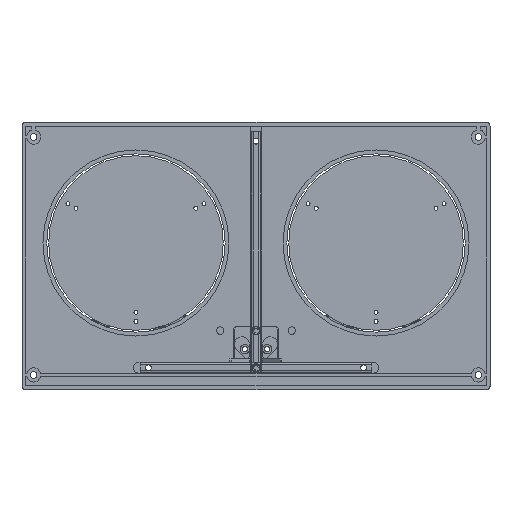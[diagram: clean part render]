
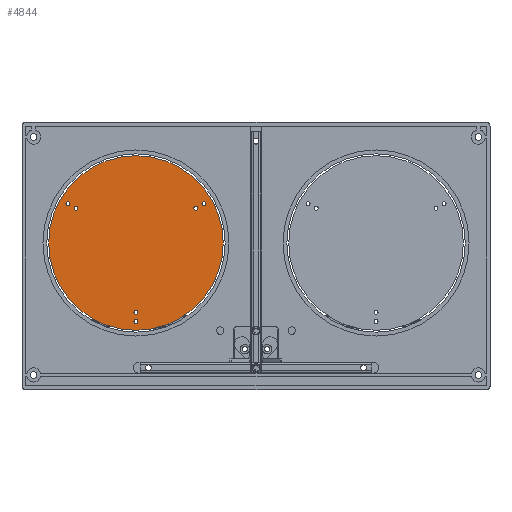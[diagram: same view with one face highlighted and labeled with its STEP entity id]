
A CAD part, front view. The second image highlights one B-rep face of the part: STEP entity #4844.
In plain terms, the highlighted planar face has unit normal (0, -1, 0).
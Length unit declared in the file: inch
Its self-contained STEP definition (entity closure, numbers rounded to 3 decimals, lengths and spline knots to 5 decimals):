
#20 = CARTESIAN_POINT ( 'NONE',  ( -12.65651, 1.04, 3.65025 ) ) ;
#63 = DIRECTION ( 'NONE',  ( 0., 1., 0. ) ) ;
#142 = FACE_BOUND ( 'NONE', #11262, .T. ) ;
#171 = ORIENTED_EDGE ( 'NONE', *, *, #10595, .T. ) ;
#367 = FACE_BOUND ( 'NONE', #10986, .T. ) ;
#586 = DIRECTION ( 'NONE',  ( 0., 1., 0. ) ) ;
#926 = CARTESIAN_POINT ( 'NONE',  ( -8.08, 1.04, -3.7845 ) ) ;
#1540 = CIRCLE ( 'NONE', #9369, 0.133 ) ;
#1846 = CARTESIAN_POINT ( 'NONE',  ( -3.50349, 1.04, 3.65025 ) ) ;
#2496 = CIRCLE ( 'NONE', #11588, 0.133 ) ;
#2507 = FACE_BOUND ( 'NONE', #9302, .T. ) ;
#2583 = PLANE ( 'NONE',  #8422 ) ;
#2820 = FACE_BOUND ( 'NONE', #13203, .T. ) ;
#2904 = ORIENTED_EDGE ( 'NONE', *, *, #6561, .T. ) ;
#3090 = VERTEX_POINT ( 'NONE', #1846 ) ;
#3396 = VERTEX_POINT ( 'NONE', #13042 ) ;
#3480 = VERTEX_POINT ( 'NONE', #14483 ) ;
#3951 = CARTESIAN_POINT ( 'NONE',  ( -8.08, 1.04, 6.75 ) ) ;
#4744 = DIRECTION ( 'NONE',  ( 0., 0., 1. ) ) ;
#4844 = ADVANCED_FACE ( 'NONE', ( #2820, #367, #8917, #2507, #142, #4983, #8612 ), #2583, .F. ) ;
#4983 = FACE_BOUND ( 'NONE', #10242, .T. ) ;
#5471 = DIRECTION ( 'NONE',  ( 0., 0., 1. ) ) ;
#5630 = DIRECTION ( 'NONE',  ( 0., 0., 1. ) ) ;
#5780 = CIRCLE ( 'NONE', #15605, 0.133 ) ;
#5836 = DIRECTION ( 'NONE',  ( 0., 0., 1. ) ) ;
#6074 = DIRECTION ( 'NONE',  ( 0., 0., 1. ) ) ;
#6561 = EDGE_CURVE ( 'NONE', #3090, #3090, #1540, .T. ) ;
#6766 = AXIS2_PLACEMENT_3D ( 'NONE', #15157, #15308, #5471 ) ;
#7349 = CARTESIAN_POINT ( 'NONE',  ( -12.11525, 1.04, 3.20475 ) ) ;
#7386 = VERTEX_POINT ( 'NONE', #3951 ) ;
#7532 = CARTESIAN_POINT ( 'NONE',  ( -3.50349, 1.04, 3.51725 ) ) ;
#7552 = CIRCLE ( 'NONE', #11334, 0.133 ) ;
#7657 = CIRCLE ( 'NONE', #13953, 0.133 ) ;
#7680 = VERTEX_POINT ( 'NONE', #9746 ) ;
#7826 = ORIENTED_EDGE ( 'NONE', *, *, #8592, .T. ) ;
#7964 = CARTESIAN_POINT ( 'NONE',  ( -8.08, 1.04, 0.875 ) ) ;
#8014 = VERTEX_POINT ( 'NONE', #12794 ) ;
#8173 = CARTESIAN_POINT ( 'NONE',  ( -8.08, 1.04, -4.4095 ) ) ;
#8422 = AXIS2_PLACEMENT_3D ( 'NONE', #7964, #586, #11358 ) ;
#8592 = EDGE_CURVE ( 'NONE', #8014, #8014, #7657, .T. ) ;
#8612 = FACE_OUTER_BOUND ( 'NONE', #15285, .T. ) ;
#8917 = FACE_BOUND ( 'NONE', #14670, .T. ) ;
#9302 = EDGE_LOOP ( 'NONE', ( #10408 ) ) ;
#9369 = AXIS2_PLACEMENT_3D ( 'NONE', #7532, #11145, #5630 ) ;
#9508 = VERTEX_POINT ( 'NONE', #20 ) ;
#9537 = DIRECTION ( 'NONE',  ( 0., 0., 1. ) ) ;
#9746 = CARTESIAN_POINT ( 'NONE',  ( -8.08, 1.04, -3.6515 ) ) ;
#9811 = ORIENTED_EDGE ( 'NONE', *, *, #13782, .T. ) ;
#10029 = AXIS2_PLACEMENT_3D ( 'NONE', #15446, #14435, #9537 ) ;
#10242 = EDGE_LOOP ( 'NONE', ( #7826 ) ) ;
#10315 = ORIENTED_EDGE ( 'NONE', *, *, #12153, .F. ) ;
#10408 = ORIENTED_EDGE ( 'NONE', *, *, #10505, .T. ) ;
#10505 = EDGE_CURVE ( 'NONE', #9508, #9508, #7552, .T. ) ;
#10595 = EDGE_CURVE ( 'NONE', #3480, #3480, #2496, .T. ) ;
#10600 = DIRECTION ( 'NONE',  ( 0., 0., 1. ) ) ;
#10986 = EDGE_LOOP ( 'NONE', ( #2904 ) ) ;
#11145 = DIRECTION ( 'NONE',  ( 0., 1., 0. ) ) ;
#11262 = EDGE_LOOP ( 'NONE', ( #9811 ) ) ;
#11334 = AXIS2_PLACEMENT_3D ( 'NONE', #11835, #63, #6074 ) ;
#11358 = DIRECTION ( 'NONE',  ( 0., 0., 1. ) ) ;
#11588 = AXIS2_PLACEMENT_3D ( 'NONE', #7349, #12136, #5836 ) ;
#11835 = CARTESIAN_POINT ( 'NONE',  ( -12.65651, 1.04, 3.51725 ) ) ;
#12053 = EDGE_CURVE ( 'NONE', #3396, #3396, #13571, .T. ) ;
#12136 = DIRECTION ( 'NONE',  ( 0., 1., 0. ) ) ;
#12153 = EDGE_CURVE ( 'NONE', #7386, #7386, #14809, .T. ) ;
#12794 = CARTESIAN_POINT ( 'NONE',  ( -8.08, 1.04, -4.2765 ) ) ;
#12852 = DIRECTION ( 'NONE',  ( 0., 1., 0. ) ) ;
#12964 = DIRECTION ( 'NONE',  ( 0., 1., 0. ) ) ;
#13042 = CARTESIAN_POINT ( 'NONE',  ( -4.04475, 1.04, 3.33775 ) ) ;
#13203 = EDGE_LOOP ( 'NONE', ( #14851 ) ) ;
#13571 = CIRCLE ( 'NONE', #6766, 0.133 ) ;
#13782 = EDGE_CURVE ( 'NONE', #7680, #7680, #5780, .T. ) ;
#13953 = AXIS2_PLACEMENT_3D ( 'NONE', #8173, #12964, #10600 ) ;
#14435 = DIRECTION ( 'NONE',  ( 0., 1., 0. ) ) ;
#14483 = CARTESIAN_POINT ( 'NONE',  ( -12.11525, 1.04, 3.33775 ) ) ;
#14670 = EDGE_LOOP ( 'NONE', ( #171 ) ) ;
#14809 = CIRCLE ( 'NONE', #10029, 5.875 ) ;
#14851 = ORIENTED_EDGE ( 'NONE', *, *, #12053, .T. ) ;
#15157 = CARTESIAN_POINT ( 'NONE',  ( -4.04475, 1.04, 3.20475 ) ) ;
#15285 = EDGE_LOOP ( 'NONE', ( #10315 ) ) ;
#15308 = DIRECTION ( 'NONE',  ( 0., 1., 0. ) ) ;
#15446 = CARTESIAN_POINT ( 'NONE',  ( -8.08, 1.04, 0.875 ) ) ;
#15605 = AXIS2_PLACEMENT_3D ( 'NONE', #926, #12852, #4744 ) ;
